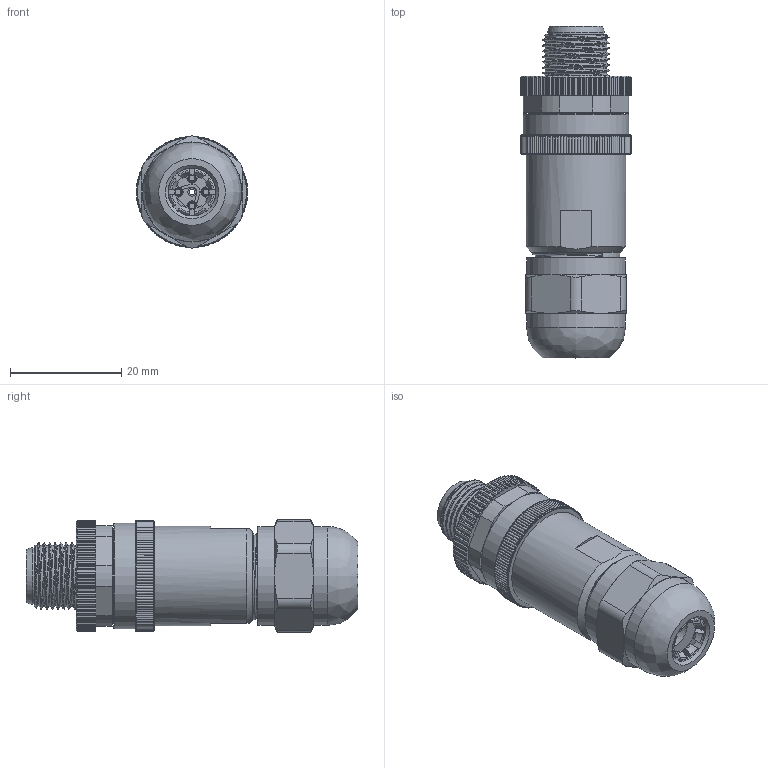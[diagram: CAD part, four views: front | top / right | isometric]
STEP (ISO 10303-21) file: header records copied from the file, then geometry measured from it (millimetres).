
FILE_DESCRIPTION(/* description */ (''),/* implementation_level */ '2;1');
FILE_NAME(/* name */ 'M12D-4MS.P-PG7_stp.stp',/* time_stamp */ '2024-09-04T08:51:02+08:00',/* author */ (''),/* organization */ (''),/* preprocessor_version */ 'ST-DEVELOPER v16.7',/* originating_system */ 'SIEMENS PLM Software NX 12.0',/* authorisation */ '');
FILE_SCHEMA (('AP203_CONFIGURATION_CONTROLLED_3D_DESIGN_OF_MECHANICAL_PARTS_AND_ASSEMBLIES_MIM_LF { 1 0 10303 403 2 1 2}'));
Products named in the file (1): lyj0B5CE8DD9ilc
Bounding box: 20 x 59.7 x 20.16 mm (x, y, z)
Surface area: 12834.2 mm2
Topology: 10 solids, 11 shells, 1311 faces, 3134 edges, 1883 vertices
Faces by surface type: cylinder 533, plane 358, cone 358, extrusion 25, torus 17, bspline 14, sphere 6
Full cylindrical faces by diameter (mm): 1 x13, 1.2 x8, 1.4 x4, 1.5 x13, 2 x4, 6.2 x1, 8.3 x1, 8.5 x1, 8.6 x2, 9.4 x1, 9.5 x1, 9.7 x1, 10 x1, 10.2 x1, 10.8 x1, 11.3 x2, 11.6 x1, 12.1 x1, 12.7 x1, 13.2 x3, 13.4 x1, 13.8 x1, 13.9 x1, 14.4 x1, 14.8 x12, 15.8 x4, 16.2 x1, 16.4 x1, 16.7 x1, 16.8 x1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
Entity records: 53689 total; most frequent: CARTESIAN_POINT 25099, DIRECTION 5978, ORIENTED_EDGE 5796, EDGE_CURVE 2898, AXIS2_PLACEMENT_3D 2428, VERTEX_POINT 1779, EDGE_LOOP 1481, ADVANCED_FACE 1290
